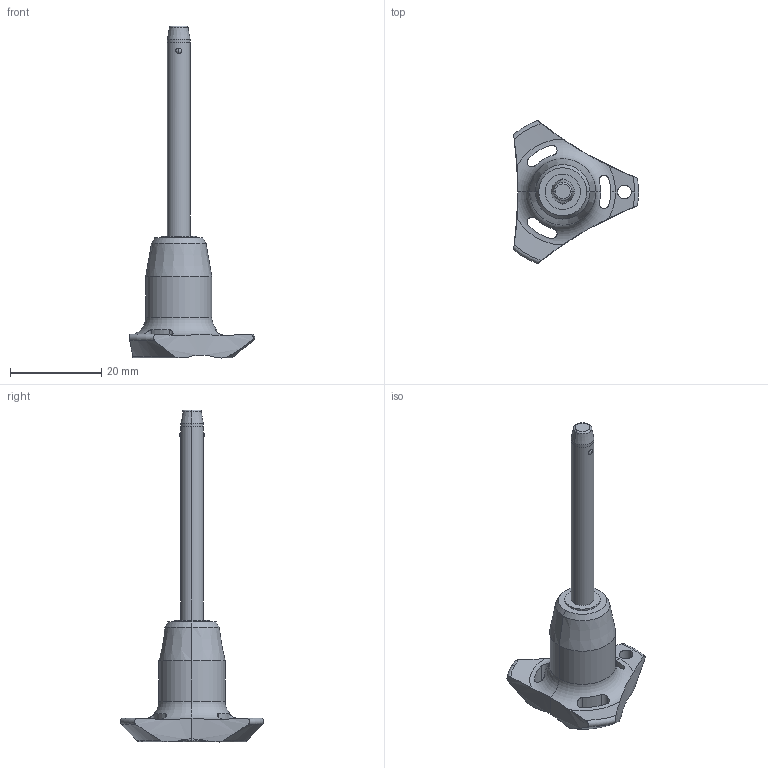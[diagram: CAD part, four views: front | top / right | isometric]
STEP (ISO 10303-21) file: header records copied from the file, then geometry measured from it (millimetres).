
FILE_DESCRIPTION (( 'STEP AP203' ), '1' );
FILE_NAME ('QR1716.M05-040-T.step', '2025-11-13T10:25:14', ( '' ), ( '' ), 'SwSTEP 2.0', 'SolidWorks 2019', '' );
FILE_SCHEMA (( 'CONFIG_CONTROL_DESIGN' ));
Length unit declared in the file: millimetre
Products named in the file (1): QR1716.M05-040-T
Bounding box: 27.4 x 31.31 x 72.7 mm (x, y, z)
Volume: 5653.3 mm3; surface area: 3136.7 mm2
Topology: 1 solids, 1 shells, 69 faces, 187 edges, 119 vertices
Faces by surface type: cylinder 32, cone 14, torus 12, sphere 6, plane 5
Entity records: 2773 total; most frequent: CARTESIAN_POINT 994, ORIENTED_EDGE 374, DIRECTION 348, EDGE_CURVE 187, AXIS2_PLACEMENT_3D 155, VERTEX_POINT 119, CIRCLE 85, EDGE_LOOP 76
